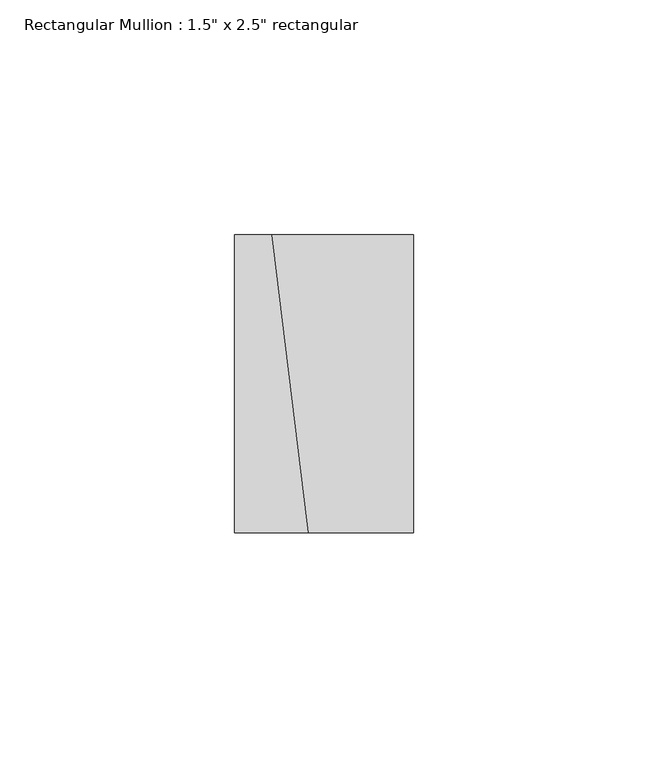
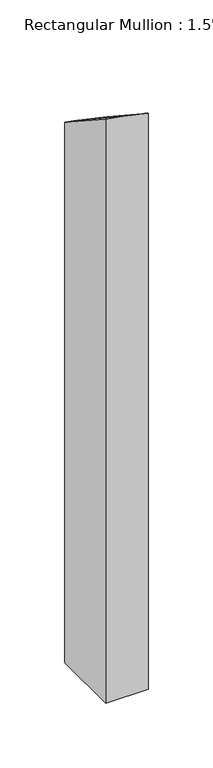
"""IFC4 building model written with IfcOpenShell, lengths in millimetres: member geometry."""

from ifc_helpers import new_model, si_unit, origin, place, context, project, spatial, faceted_brep, source, transform, mapped, element, save


def member_b07f7d10(model_context):
    return source(origin(), model_context, "Body", "Brep", [
        faceted_brep([(19.05, 31.75, -566.911219), (19.05, -31.75, -566.911219), (-19.05, -31.75, -566.911219), (-19.05, 31.75, -566.911219), (-19.05, 31.75, -55.8672788), (-11.0070162, 31.75, -57.1075791), (19.05, 31.75, -64.0758312), (-19.05, -31.75, -14.6124483), (19.05, -31.75, -22.2215757), (-3.2850045, -31.75, -17.043552)], [[[0, 1, 2, 3]], [[4, 5, 6, 0, 3]], [[7, 4, 3, 2]], [[8, 9, 7, 2, 1]], [[6, 8, 1, 0]], [[6, 5, 9, 8]], [[5, 4, 7, 9]]]),
    ])


if __name__ == "__main__":
    model = new_model("IFC4")
    model_context = context("Model", 3, world=origin())
    ifc_project = project(units=[si_unit("LENGTHUNIT", "METRE", prefix="MILLI")], contexts=[model_context])
    site = spatial("IfcSite", under=ifc_project)
    building = spatial("IfcBuilding", under=site)
    placement = place(None, origin())
    member_shape = member_b07f7d10(model_context)
    element("IfcMember", 1, ObjectType="Rectangular Mullion : 1.5\" x 2.5\" rectangular", at=placement, inside=building, context=model_context, shape_type="MappedRepresentation", body=[
        mapped(member_shape, transform((0.0, 0.0, 0.0), x_axis=(1.0, 0.0, 0.0), y_axis=(0.0, 1.0, 0.0), z_axis=(0.0, 0.0, 1.0))),
    ])
    save(model, "model.ifc")
